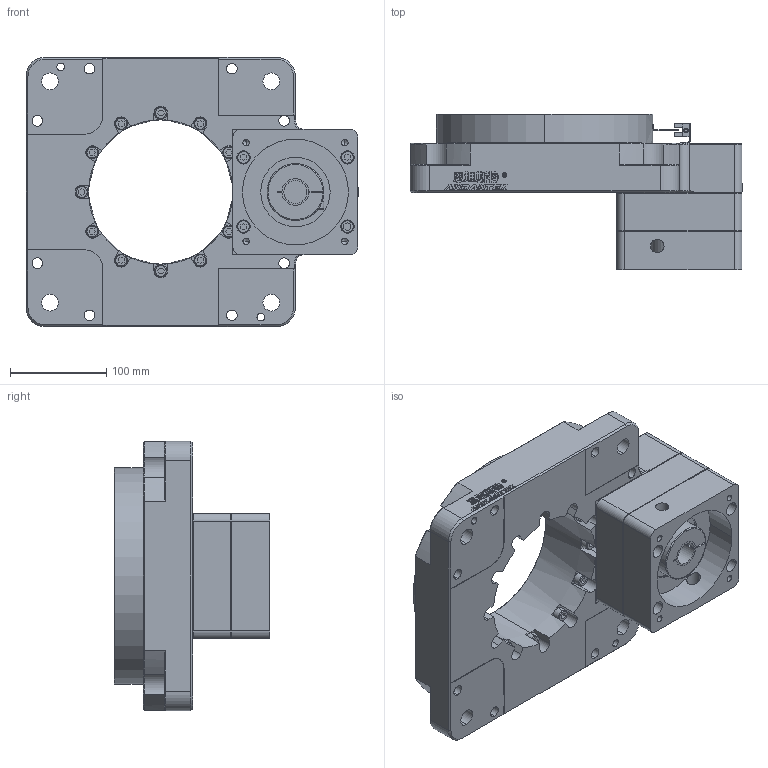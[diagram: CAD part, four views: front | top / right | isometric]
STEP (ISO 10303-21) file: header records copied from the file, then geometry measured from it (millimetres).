
FILE_DESCRIPTION(('Open CASCADE Model'),'2;1');
FILE_NAME('Open CASCADE Shape Model','2026-10-11T02:48:10',('Author'),( 'Open CASCADE'),'Open CASCADE STEP processor 7.8','Open CASCADE 7.8' ,'Unknown');
FILE_SCHEMA(('AUTOMOTIVE_DESIGN { 1 0 10303 214 1 1 1 1 }'));
Length unit declared in the file: millimetre
Products named in the file (3): NT280-10(配伺服1500W 输入24-62 110-9 4-M8-145); NT280-10(配伺服1500W 输入24-62 110-9 4-M8-145)-01; NT280-10(配伺服1500W 输入24-62 110-9 4-M8-145)-02
Assembly tree (2 placements, depth 2):
  NT280-10(配伺服1500W 输入24-62 110-9 4-M8-145)
    NT280-10(配伺服1500W 输入24-62 110-9 4-M8-145)-01
    NT280-10(配伺服1500W 输入24-62 110-9 4-M8-145)-02
Bounding box: 345 x 161.5 x 280 mm (x, y, z)
Volume: 4804401.9 mm3; surface area: 457377.1 mm2
Topology: 9 solids, 10 shells, 1339 faces, 3566 edges, 2312 vertices
Faces by surface type: plane 962, cylinder 252, cone 108, bspline 15, torus 2
Entity records: 92183 total; most frequent: CARTESIAN_POINT 23475, DIRECTION 12105, LINE 8074, VECTOR 8074, ORIENTED_EDGE 7052, PCURVE 7052, DEFINITIONAL_REPRESENTATION 7052, EDGE_CURVE 3526
